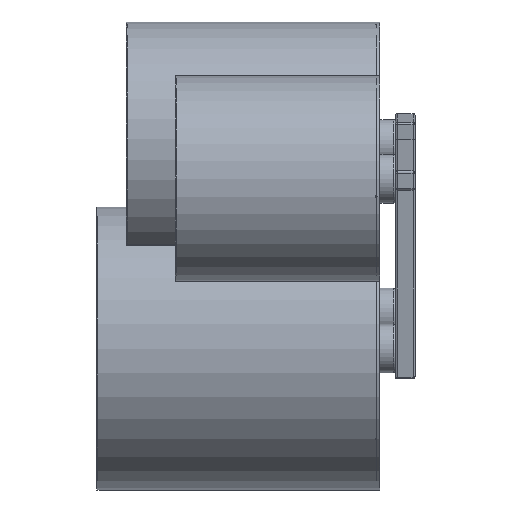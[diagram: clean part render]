
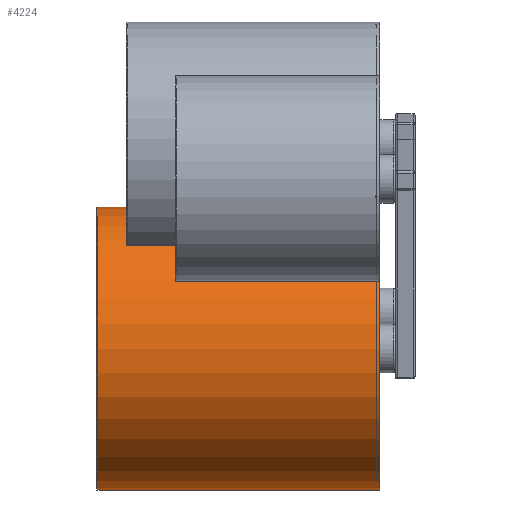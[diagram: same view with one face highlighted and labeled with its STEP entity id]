
A CAD part, left-side view. The second image highlights one B-rep face of the part: STEP entity #4224.
In plain terms, the highlighted cylindrical face has radius 145 mm (diameter 290 mm), a full revolution.
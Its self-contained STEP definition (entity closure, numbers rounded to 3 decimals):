
#498=LINE('',#14026,#725);
#725=VECTOR('',#5645,145.);
#906=CYLINDRICAL_SURFACE('',#4689,145.);
#1123=FACE_OUTER_BOUND('',#1455,.T.);
#1455=EDGE_LOOP('',(#3444,#3445,#3446,#3447));
#1756=CIRCLE('',#4690,145.);
#1757=CIRCLE('',#4691,145.);
#2118=VERTEX_POINT('',#14023);
#2119=VERTEX_POINT('',#14025);
#2577=EDGE_CURVE('',#2118,#2118,#1756,.T.);
#2578=EDGE_CURVE('',#2118,#2119,#498,.T.);
#2579=EDGE_CURVE('',#2119,#2119,#1757,.T.);
#3444=ORIENTED_EDGE('',*,*,#2577,.F.);
#3445=ORIENTED_EDGE('',*,*,#2578,.T.);
#3446=ORIENTED_EDGE('',*,*,#2579,.T.);
#3447=ORIENTED_EDGE('',*,*,#2578,.F.);
#4224=ADVANCED_FACE('',(#1123),#906,.T.);
#4689=AXIS2_PLACEMENT_3D('',#14022,#5641,#5642);
#4690=AXIS2_PLACEMENT_3D('',#14024,#5643,#5644);
#4691=AXIS2_PLACEMENT_3D('',#14027,#5646,#5647);
#5641=DIRECTION('center_axis',(0.,1.,0.));
#5642=DIRECTION('ref_axis',(1.,0.,0.));
#5643=DIRECTION('center_axis',(0.,1.,0.));
#5644=DIRECTION('ref_axis',(1.,0.,0.));
#5645=DIRECTION('',(0.,-1.,0.));
#5646=DIRECTION('center_axis',(0.,1.,0.));
#5647=DIRECTION('ref_axis',(1.,0.,0.));
#14022=CARTESIAN_POINT('Origin',(0.,0.,0.));
#14023=CARTESIAN_POINT('',(-145.,290.,0.));
#14024=CARTESIAN_POINT('Origin',(0.,290.,0.));
#14025=CARTESIAN_POINT('',(-145.,0.,0.));
#14026=CARTESIAN_POINT('',(-145.,0.,0.));
#14027=CARTESIAN_POINT('Origin',(0.,0.,0.));
